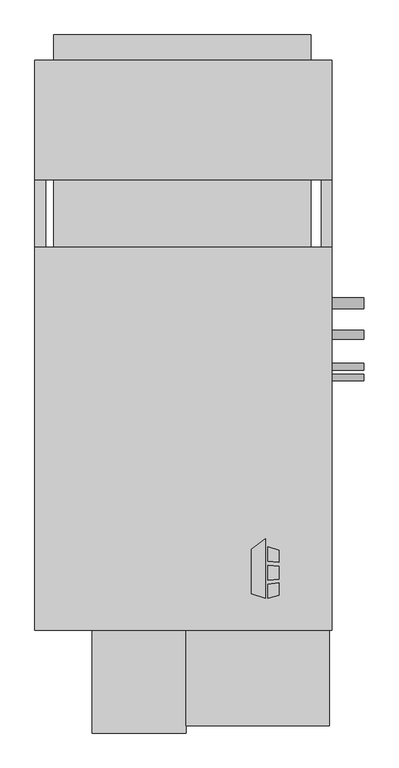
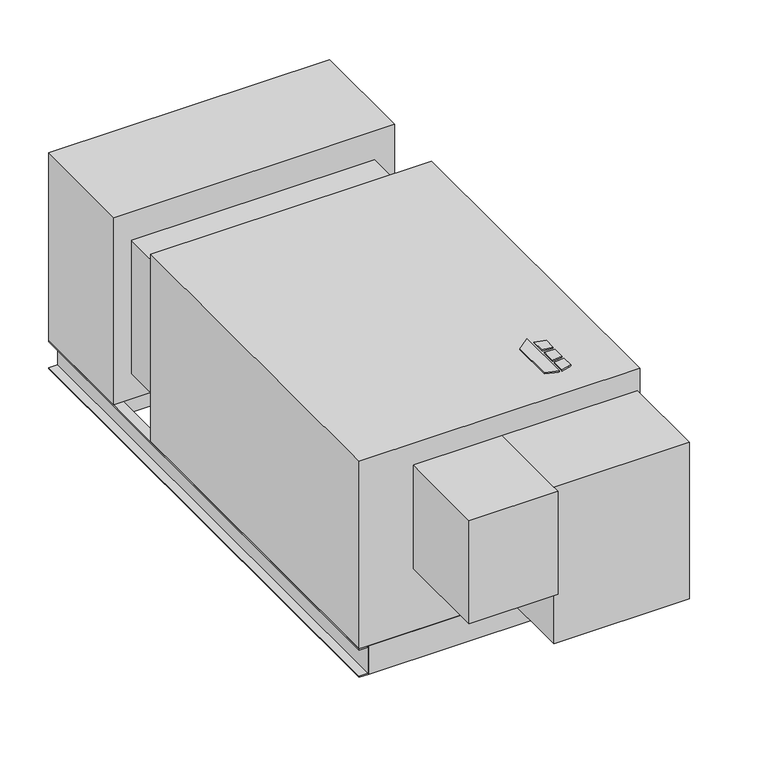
"""IFC4 building model written with IfcOpenShell, lengths in millimetres: proxy geometry, Horizontal_Direct_Drive_Blower_Coil_Unit_-_HDY_-_IEC_-_4-Pipe_NFilterR_W-MixingBox_RH_2022 : Size 06 - 460v/60Hz/3Ph - 6/2 Coil."""

from ifc_helpers import new_model, si_unit, point, frame, frame_2d, origin, origin_with_axes, place, context, project, spatial, polyline, circle_curve, trimmed, segment, composite_curve, outline, extrude, source, transform, mapped, element, save


def mechanical_equipment_fb196a7a(model_context):
    return source(origin(), model_context, "Body", "SweptSolid", [
        extrude(outline(polyline([(-547.9980239, -229.5578476), (-515.4397272, -204.1205184), (-515.4397272, -346.075), (-547.9980239, -335.8554201), (-547.9980239, -229.5578476)])), origin_with_axes(), (0.0, 0.0, 1.0), 3.175),
        extrude(outline(polyline([(-508.6813942, -257.429852), (-508.6813942, -222.9499379), (-482.6, -231.1365115), (-482.6, -260.6322446), (-508.6813942, -257.429852)])), origin_with_axes(), (0.0, 0.0, 1.0), 3.175),
        extrude(outline(polyline([(-482.6, -339.0865115), (-508.6813942, -346.075), (-508.6813942, -312.8536996), (-482.6, -309.3118564), (-482.6, -339.0865115)])), origin_with_axes(), (0.0, 0.0, 1.0), 3.175),
        extrude(outline(polyline([(-482.6, -269.7138277), (-482.6, -300.963983), (-508.6813942, -303.705248), (-508.6813942, -267.8475378), (-482.6, -269.7138277)])), origin_with_axes(), (0.0, 0.0, 1.0), 3.175),
        extrude(outline(polyline([(-406.4, 837.565), (-406.4, 685.165), (-1022.35, 685.165), (-1022.35, 837.565), (-406.4, 837.565)])), frame((0.0, 0.0, -562.61), z_axis=(0.0, 0.0, 1.0), x_axis=(1.0, 0.0, 0.0)), (0.0, 0.0, 1.0), 60.96),
        extrude(outline(polyline([(-1022.35, 1000.125), (-406.4, 1000.125), (-406.4, 939.165), (-1022.35, 939.165), (-1022.35, 1000.125)])), frame((0.0, 0.0, -228.6), z_axis=(0.0, 0.0, 1.0), x_axis=(1.0, 0.0, 0.0)), (0.0, 0.0, 1.0), 152.4),
        extrude(outline(polyline([(-355.6, 939.165), (-355.6, 654.05), (-1066.8, 654.05), (-1066.8, 939.165), (-355.6, 939.165)])), frame((0.0, 0.0, -501.65), z_axis=(0.0, 0.0, 1.0), x_axis=(1.0, 0.0, 0.0)), (0.0, 0.0, 1.0), 501.65),
        extrude(outline(polyline([(-381.0, -396.875), (-381.0, -422.275), (-1041.4, -422.275), (-1041.4, -396.875), (-381.0, -396.875)])), frame((0.0, 0.0, -577.85), z_axis=(0.0, 0.0, 1.0), x_axis=(1.0, 0.0, 0.0)), (0.0, 0.0, 1.0), 76.2),
        extrude(outline(polyline([(-381.0, 939.165), (-381.0, 913.765), (-1041.4, 913.765), (-1041.4, 939.165), (-381.0, 939.165)])), frame((0.0, 0.0, -577.85), z_axis=(0.0, 0.0, 1.0), x_axis=(1.0, 0.0, 0.0)), (0.0, 0.0, 1.0), 76.2),
        extrude(outline(polyline([(-501.65, -1041.4), (-501.65, -1066.8), (-504.825, -1066.8), (-504.825, -1044.575), (-574.675, -1044.575), (-574.675, -1066.8), (-577.85, -1066.8), (-577.85, -1041.4), (-501.65, -1041.4)])), frame((0.0, -422.275, 0.0), z_axis=(0.0, 1.0, 0.0), x_axis=(0.0, 0.0, 1.0)), (0.0, 0.0, 1.0), 1361.44),
        extrude(outline(polyline([(-501.65, -381.0), (-577.85, -381.0), (-577.85, -355.6), (-574.675, -355.6), (-574.675, -377.825), (-504.825, -377.825), (-504.825, -355.6), (-501.65, -355.6), (-501.65, -381.0)])), frame((0.0, -422.275, 0.0), z_axis=(0.0, 1.0, 0.0), x_axis=(0.0, 0.0, 1.0)), (0.0, 0.0, 1.0), 1361.44),
        extrude(outline(composite_curve([segment(trimmed(circle_curve(frame_2d((358.775, -177.8)), 12.7), [point((371.475, -177.8))], [point((346.075, -177.8))], False, "CARTESIAN"), True, "CONTINUOUS"), segment(trimmed(circle_curve(frame_2d((358.775, -177.8)), 12.7), [point((346.075, -177.8))], [point((371.475, -177.8))], False, "CARTESIAN"), True, "CONTINUOUS")], self_intersect=False)), frame((-355.6, 0.0, 0.0), z_axis=(1.0, 0.0, 0.0), x_axis=(0.0, 1.0, 0.0)), (0.0, 0.0, 1.0), 76.2),
        extrude(outline(composite_curve([segment(trimmed(circle_curve(frame_2d((359.642288, -374.65)), 12.7), [point((372.342288, -374.65))], [point((346.942288, -374.65))], False, "CARTESIAN"), True, "CONTINUOUS"), segment(trimmed(circle_curve(frame_2d((359.642288, -374.65)), 12.7), [point((346.942288, -374.65))], [point((372.342288, -374.65))], False, "CARTESIAN"), True, "CONTINUOUS")], self_intersect=False)), frame((-355.6, 0.0, 0.0), z_axis=(1.0, 0.0, 0.0), x_axis=(0.0, 1.0, 0.0)), (0.0, 0.0, 1.0), 76.2),
        extrude(outline(composite_curve([segment(trimmed(circle_curve(frame_2d((283.442288, -457.2)), 11.1125), [point((294.554788, -457.2))], [point((272.329788, -457.2))], False, "CARTESIAN"), True, "CONTINUOUS"), segment(trimmed(circle_curve(frame_2d((283.442288, -457.2)), 11.1125), [point((272.329788, -457.2))], [point((294.554788, -457.2))], False, "CARTESIAN"), True, "CONTINUOUS")], self_intersect=False)), frame((-355.6, 0.0, 0.0), z_axis=(1.0, 0.0, 0.0), x_axis=(0.0, 1.0, 0.0)), (0.0, 0.0, 1.0), 76.2),
        extrude(outline(composite_curve([segment(trimmed(circle_curve(frame_2d((207.242288, -228.6)), 7.9375), [point((215.179788, -228.6))], [point((199.304788, -228.6))], False, "CARTESIAN"), True, "CONTINUOUS"), segment(trimmed(circle_curve(frame_2d((207.242288, -228.6)), 7.9375), [point((199.304788, -228.6))], [point((215.179788, -228.6))], False, "CARTESIAN"), True, "CONTINUOUS")], self_intersect=False)), frame((-355.6, 0.0, 0.0), z_axis=(1.0, 0.0, 0.0), x_axis=(0.0, 1.0, 0.0)), (0.0, 0.0, 1.0), 76.2),
        extrude(outline(composite_curve([segment(trimmed(circle_curve(frame_2d((181.842288, -324.1292556)), 7.9375), [point((189.779788, -324.1292556))], [point((173.904788, -324.1292556))], False, "CARTESIAN"), True, "CONTINUOUS"), segment(trimmed(circle_curve(frame_2d((181.842288, -324.1292556)), 7.9375), [point((173.904788, -324.1292556))], [point((189.779788, -324.1292556))], False, "CARTESIAN"), True, "CONTINUOUS")], self_intersect=False)), frame((-355.6, 0.0, 0.0), z_axis=(1.0, 0.0, 0.0), x_axis=(0.0, 1.0, 0.0)), (0.0, 0.0, 1.0), 76.2),
        extrude(outline(polyline([(-355.6, 492.125), (-355.6, -422.275), (-1066.8, -422.275), (-1066.8, 492.125), (-355.6, 492.125)])), frame((0.0, 0.0, -501.65), z_axis=(0.0, 0.0, 1.0), x_axis=(1.0, 0.0, 0.0)), (0.0, 0.0, 1.0), 501.65),
        extrude(outline(polyline([(-361.95, -650.875), (-704.85, -650.875), (-704.85, -422.275), (-361.95, -422.275), (-361.95, -650.875)])), frame((0.0, 0.0, -476.25), z_axis=(0.0, 0.0, 1.0), x_axis=(1.0, 0.0, 0.0)), (0.0, 0.0, 1.0), 419.1),
        extrude(outline(polyline([(-1022.35, 654.05), (-406.4, 654.05), (-406.4, 492.125), (-1022.35, 492.125), (-1022.35, 654.05)])), frame((0.0, 0.0, -431.8), z_axis=(0.0, 0.0, 1.0), x_axis=(1.0, 0.0, 0.0)), (0.0, 0.0, 1.0), 355.6),
        extrude(outline(polyline([(-704.85, -668.3375), (-930.275, -668.3375), (-930.275, -422.275), (-704.85, -422.275), (-704.85, -668.3375)])), frame((0.0, 0.0, -333.375), z_axis=(0.0, 0.0, 1.0), x_axis=(1.0, 0.0, 0.0)), (0.0, 0.0, 1.0), 276.225),
    ])


if __name__ == "__main__":
    model = new_model("IFC4")
    model_context = context("Model", 3, world=origin())
    ifc_project = project(units=[si_unit("LENGTHUNIT", "METRE", prefix="MILLI")], contexts=[model_context])
    site = spatial("IfcSite", under=ifc_project)
    building = spatial("IfcBuilding", under=site)
    placement = place(None, origin())
    mechanical_equipment_shape = mechanical_equipment_fb196a7a(model_context)
    element("IfcBuildingElementProxy", 1, Name="Horizontal_Direct_Drive_Blower_Coil_Unit_-_HDY_-_IEC_-_4-Pipe_NFilterR_W-MixingBox_RH_2022 : Size 06 - 460v/60Hz/3Ph - 6/2 Coil", ObjectType="Horizontal_Direct_Drive_Blower_Coil_Unit_-_HDY_-_IEC_-_4-Pipe_NFilterR_W-MixingBox_RH_2022 : Size 06 - 460v/60Hz/3Ph - 6/2 Coil", at=placement, inside=building, context=model_context, shape_type="MappedRepresentation", body=[
        mapped(mechanical_equipment_shape, transform((0.0, 0.0, 0.0), x_axis=(1.0, 0.0, 0.0), y_axis=(0.0, 1.0, 0.0), z_axis=(0.0, 0.0, 1.0))),
    ])
    save(model, "model.ifc")
